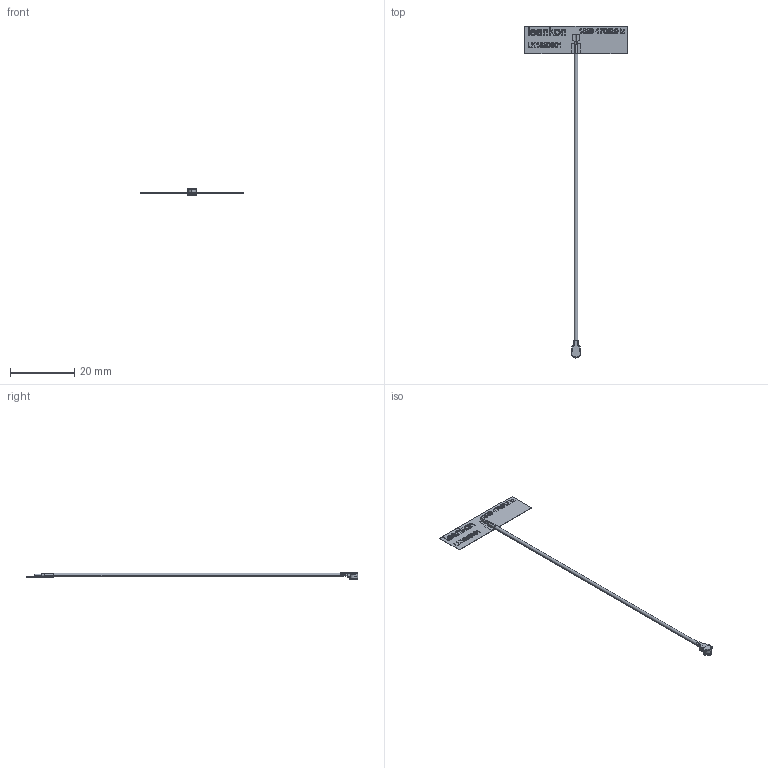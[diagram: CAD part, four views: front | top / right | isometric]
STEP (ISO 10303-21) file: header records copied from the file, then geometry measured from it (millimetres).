
FILE_DESCRIPTION(('STEP AP214'),'1');
FILE_NAME('LK1850801 3DS.stp','2025-05-31T03:18:12',('Administrator'),(' '),'Spatial InterOp 3D','CST ACIS InterOp Converter 2021',' ');
FILE_SCHEMA(('AUTOMOTIVE_DESIGN { 1 0 10303 214 1 1 1 1 }'));
Length unit declared in the file: millimetre
Products named in the file (1): LK1850801 3D|LK1850801
Bounding box: 32 x 103.54 x 2.15 mm (x, y, z)
Volume: 136.5 mm3; surface area: 977.6 mm2
Topology: 1 solids, 1 shells, 3690 faces, 10927 edges, 7277 vertices
Faces by surface type: plane 3601, cylinder 47, cone 27, torus 13, bspline 2
Entity records: 121370 total; most frequent: CARTESIAN_POINT 22532, ORIENTED_EDGE 21850, DIRECTION 18333, EDGE_CURVE 10925, LINE 10745, VECTOR 10745, VERTEX_POINT 7277, AXIS2_PLACEMENT_3D 3794
